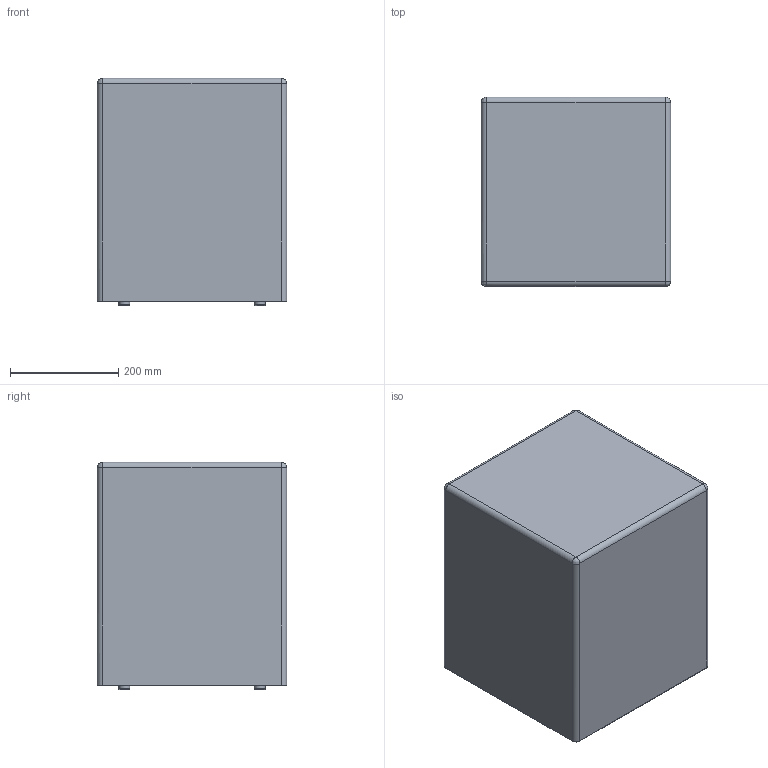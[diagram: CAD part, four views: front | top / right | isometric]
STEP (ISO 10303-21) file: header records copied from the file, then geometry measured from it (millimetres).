
FILE_DESCRIPTION(/* description */ (''),/* implementation_level */ '2;1');
FILE_NAME(/* name */ 'kinoshita_coccole_c121',/* time_stamp */ '2026-05-16T11:38:42+09:00',/* author */ (''),/* organization */ (''),/* preprocessor_version */ 'ST-DEVELOPER v16.5',/* originating_system */ '',/* authorisation */ '');
FILE_SCHEMA (('AUTOMOTIVE_DESIGN'));
Length unit declared in the file: millimetre
Products named in the file (1): Document
Bounding box: 350 x 350 x 420 mm (x, y, z)
Volume: 50415080 mm3; surface area: 812586.5 mm2
Topology: 5 solids, 5 shells, 42 faces, 72 edges, 40 vertices
Faces by surface type: bspline 28, plane 14
Entity records: 1190 total; most frequent: CARTESIAN_POINT 664, ORIENTED_EDGE 144, EDGE_CURVE 72, ADVANCED_FACE 42, FACE_OUTER_BOUND 42, EDGE_LOOP 42, VERTEX_POINT 40, B_SPLINE_CURVE_WITH_KNOTS 24
